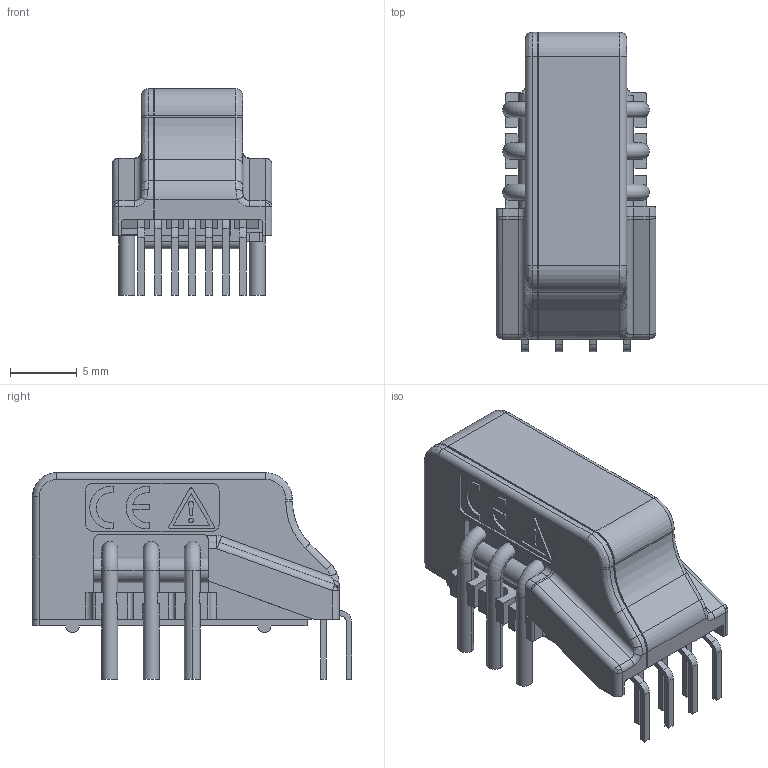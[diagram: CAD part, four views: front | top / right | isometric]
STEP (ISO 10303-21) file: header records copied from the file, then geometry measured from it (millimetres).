
FILE_DESCRIPTION(('CoCreate Modeling STEP Export'),'2;1');
FILE_NAME('HO_8-NP_BLACKBOX.stp','2012-11-15T16:52:55',(''),(''),'CoCreate Modeling STEP processor for AP214 (Solid Model)','CoCreate Modeling 17.00A 17-Jun-2010 (C) Parametric Technology GmbH','');
FILE_SCHEMA(('AUTOMOTIVE_DESIGN { 1 0 10303 214 1 1 1 1 }'));
Length unit declared in the file: millimetre
Products named in the file (2): Through_hole
Assembly tree (1 placements, depth 2):
  Through_hole
    Through_hole
Bounding box: 12 x 23.94 x 15.5 mm (x, y, z)
Volume: 2037 mm3; surface area: 1619.2 mm2
Topology: 1 solids, 1 shells, 493 faces, 1341 edges, 863 vertices
Faces by surface type: plane 304, cylinder 143, bspline 18, torus 17, cone 9, sphere 2
Entity records: 17471 total; most frequent: CARTESIAN_POINT 4682, ORIENTED_EDGE 2690, DIRECTION 2321, EDGE_CURVE 1339, VECTOR 931, LINE 931, VERTEX_POINT 863, AXIS2_PLACEMENT_3D 695
